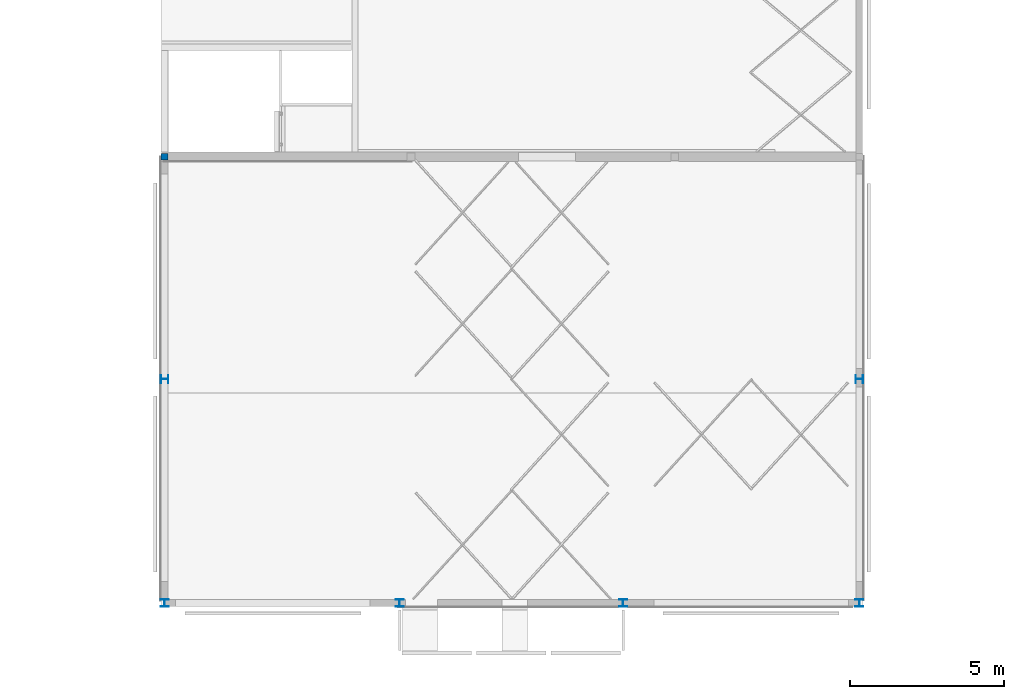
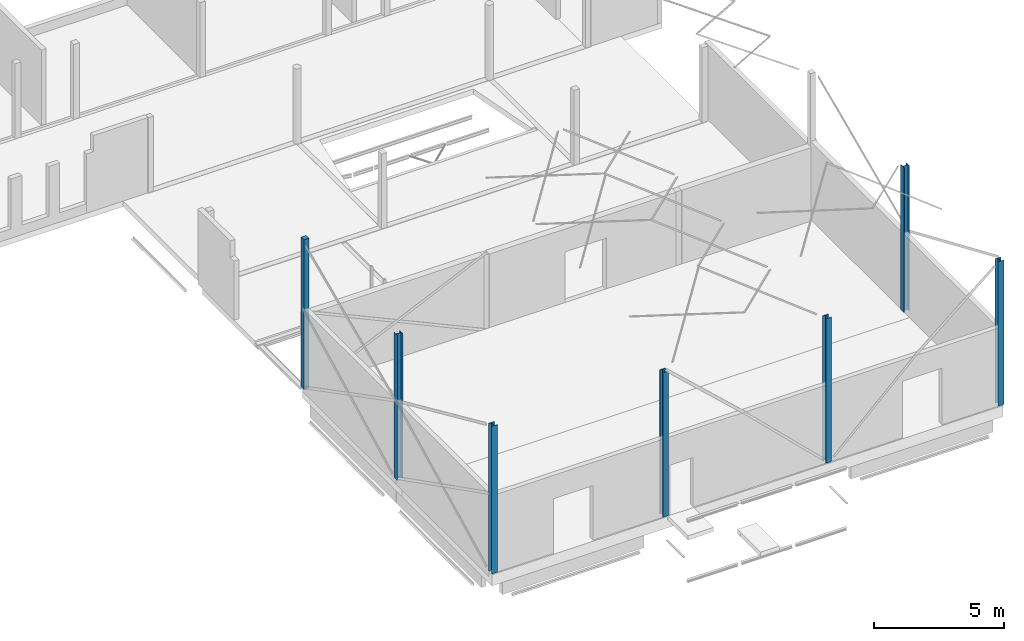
# One storey, part 1 of 14: 7 columns.
"""IFC2X3 building model written with IfcOpenShell, lengths in millimetres."""

from ifc_helpers import new_model, entity, si_unit, converted_unit, derived_unit, direction, frame, frame_2d, origin, place, context, subcontext, project, spatial, polyline, rectangle, i_section, outline, extrude, source, transform, mapped, material, material_list, type_object, type_shapes, element, save


model = new_model("IFC2X3")

# Units and contexts
model_context = context("Model", 3, precision=0.01, world=origin(), true_north=direction((6.123031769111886e-17, 1.0)))
body_context = subcontext(model_context, "Body", "Model", "MODEL_VIEW")
ifc_project = project(units=[si_unit("LENGTHUNIT", "METRE", prefix="MILLI"), si_unit("AREAUNIT", "SQUARE_METRE", prefix="MILLI"), si_unit("VOLUMEUNIT", "CUBIC_METRE"), converted_unit("PLANEANGLEUNIT", "DEGREE", entity("IfcPlaneAngleMeasure", 0.017453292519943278), si_unit("PLANEANGLEUNIT", "RADIAN"), dimensions=[0, 0, 0, 0, 0, 0, 0]), si_unit("MASSUNIT", "GRAM", prefix="KILO"), derived_unit("MASSDENSITYUNIT", [(si_unit("MASSUNIT", "GRAM", prefix="KILO"), 1), (si_unit("LENGTHUNIT", "METRE"), -3)]), derived_unit("IONCONCENTRATIONUNIT", [(si_unit("MASSUNIT", "GRAM", prefix="KILO"), 1), (si_unit("LENGTHUNIT", "METRE"), -3)]), derived_unit("MOMENTOFINERTIAUNIT", [(si_unit("LENGTHUNIT", "METRE"), 4)]), si_unit("TIMEUNIT", "SECOND"), si_unit("FREQUENCYUNIT", "HERTZ"), si_unit("THERMODYNAMICTEMPERATUREUNIT", "DEGREE_CELSIUS"), derived_unit("THERMALTRANSMITTANCEUNIT", [(si_unit("MASSUNIT", "GRAM", prefix="KILO"), 1), (si_unit("THERMODYNAMICTEMPERATUREUNIT", "KELVIN"), -1), (si_unit("TIMEUNIT", "SECOND"), -3)]), derived_unit("THERMALCONDUCTANCEUNIT", [(si_unit("MASSUNIT", "GRAM", prefix="KILO"), 1), (si_unit("THERMODYNAMICTEMPERATUREUNIT", "KELVIN"), -1), (si_unit("TIMEUNIT", "SECOND"), -3), (si_unit("LENGTHUNIT", "METRE"), 1)]), derived_unit("VOLUMETRICFLOWRATEUNIT", [(si_unit("LENGTHUNIT", "METRE", prefix="DECI"), 3), (si_unit("TIMEUNIT", "SECOND"), -1)]), derived_unit("MASSFLOWRATEUNIT", [(si_unit("MASSUNIT", "GRAM", prefix="KILO"), 1), (si_unit("TIMEUNIT", "SECOND"), -1)]), derived_unit("ROTATIONALFREQUENCYUNIT", [(si_unit("TIMEUNIT", "SECOND"), -1)]), si_unit("ELECTRICCURRENTUNIT", "AMPERE"), si_unit("ELECTRICVOLTAGEUNIT", "VOLT"), si_unit("POWERUNIT", "WATT"), si_unit("FORCEUNIT", "NEWTON", prefix="KILO"), si_unit("ILLUMINANCEUNIT", "LUX"), si_unit("LUMINOUSFLUXUNIT", "LUMEN"), si_unit("LUMINOUSINTENSITYUNIT", "CANDELA"), si_unit("ENERGYUNIT", "JOULE"), derived_unit("USERDEFINED", [(si_unit("MASSUNIT", "GRAM", prefix="KILO"), -1), (si_unit("LENGTHUNIT", "METRE"), -2), (si_unit("TIMEUNIT", "SECOND"), 3), (si_unit("LUMINOUSFLUXUNIT", "LUMEN"), 1)]), derived_unit("USERDEFINED", [(si_unit("MASSUNIT", "GRAM", prefix="KILO"), 1), (si_unit("TIMEUNIT", "SECOND"), -3), (si_unit("LENGTHUNIT", "METRE"), 3), (si_unit("ELECTRICCURRENTUNIT", "AMPERE"), -2)]), derived_unit("SOUNDPOWERUNIT", [(si_unit("MASSUNIT", "GRAM", prefix="KILO"), 1), (si_unit("TIMEUNIT", "SECOND"), -3), (si_unit("LENGTHUNIT", "METRE"), 2)]), derived_unit("SOUNDPRESSUREUNIT", [(si_unit("MASSUNIT", "GRAM", prefix="KILO"), 1), (si_unit("LENGTHUNIT", "METRE"), -1), (si_unit("TIMEUNIT", "SECOND"), -2)]), derived_unit("LINEARVELOCITYUNIT", [(si_unit("LENGTHUNIT", "METRE"), 1), (si_unit("TIMEUNIT", "SECOND"), -1)]), si_unit("PRESSUREUNIT", "PASCAL"), derived_unit("USERDEFINED", [(si_unit("MASSUNIT", "GRAM", prefix="KILO"), 1), (si_unit("LENGTHUNIT", "METRE"), -2), (si_unit("TIMEUNIT", "SECOND"), -2)]), derived_unit("LINEARFORCEUNIT", [(si_unit("MASSUNIT", "GRAM", prefix="KILO"), 1), (si_unit("TIMEUNIT", "SECOND"), -2)]), derived_unit("PLANARFORCEUNIT", [(si_unit("MASSUNIT", "GRAM", prefix="KILO"), 1), (si_unit("LENGTHUNIT", "METRE"), -1), (si_unit("TIMEUNIT", "SECOND"), -2)]), derived_unit("SPECIFICHEATCAPACITYUNIT", [(si_unit("THERMODYNAMICTEMPERATUREUNIT", "KELVIN"), -1), (si_unit("LENGTHUNIT", "METRE"), 2), (si_unit("TIMEUNIT", "SECOND"), -2)]), derived_unit("HEATFLUXDENSITYUNIT", [(si_unit("MASSUNIT", "GRAM", prefix="KILO"), 1), (si_unit("TIMEUNIT", "SECOND"), -3)]), derived_unit("HEATINGVALUEUNIT", [(si_unit("LENGTHUNIT", "METRE"), 2), (si_unit("TIMEUNIT", "SECOND"), -2)]), derived_unit("VAPORPERMEABILITYUNIT", [(si_unit("LENGTHUNIT", "METRE"), -1), (si_unit("TIMEUNIT", "SECOND"), 1)]), derived_unit("DYNAMICVISCOSITYUNIT", [(si_unit("MASSUNIT", "GRAM", prefix="KILO"), 1), (si_unit("TIMEUNIT", "SECOND"), -1), (si_unit("LENGTHUNIT", "METRE"), -1)]), derived_unit("THERMALEXPANSIONCOEFFICIENTUNIT", [(si_unit("THERMODYNAMICTEMPERATUREUNIT", "KELVIN"), -1)]), derived_unit("MODULUSOFELASTICITYUNIT", [(si_unit("MASSUNIT", "GRAM", prefix="KILO"), 1), (si_unit("LENGTHUNIT", "METRE"), -1), (si_unit("TIMEUNIT", "SECOND"), -2)]), derived_unit("ISOTHERMALMOISTURECAPACITYUNIT", [(si_unit("MASSUNIT", "GRAM", prefix="KILO"), -1), (si_unit("LENGTHUNIT", "METRE"), 3)]), derived_unit("MOISTUREDIFFUSIVITYUNIT", [(si_unit("TIMEUNIT", "SECOND"), -1), (si_unit("LENGTHUNIT", "METRE"), 2)]), derived_unit("MASSPERLENGTHUNIT", [(si_unit("MASSUNIT", "GRAM", prefix="KILO"), 1), (si_unit("LENGTHUNIT", "METRE"), -1)]), derived_unit("THERMALRESISTANCEUNIT", [(si_unit("MASSUNIT", "GRAM", prefix="KILO"), -1), (si_unit("TIMEUNIT", "SECOND"), 3), (si_unit("THERMODYNAMICTEMPERATUREUNIT", "KELVIN"), 1)]), derived_unit("ACCELERATIONUNIT", [(si_unit("LENGTHUNIT", "METRE"), 1), (si_unit("TIMEUNIT", "SECOND"), -2)]), derived_unit("ANGULARVELOCITYUNIT", [(si_unit("TIMEUNIT", "SECOND"), -1), (si_unit("PLANEANGLEUNIT", "RADIAN"), 1)]), derived_unit("LINEARSTIFFNESSUNIT", [(si_unit("MASSUNIT", "GRAM", prefix="KILO"), 1), (si_unit("TIMEUNIT", "SECOND"), -2)]), derived_unit("WARPINGCONSTANTUNIT", [(si_unit("LENGTHUNIT", "METRE"), 6)]), derived_unit("LINEARMOMENTUNIT", [(si_unit("MASSUNIT", "GRAM", prefix="KILO"), 1), (si_unit("LENGTHUNIT", "METRE"), 1), (si_unit("TIMEUNIT", "SECOND"), -2)]), derived_unit("TORQUEUNIT", [(si_unit("MASSUNIT", "GRAM", prefix="KILO"), 1), (si_unit("LENGTHUNIT", "METRE"), 2), (si_unit("TIMEUNIT", "SECOND"), -2)])], contexts=[model_context])

# Site, building, storey
site_placement = place(None, origin())
site = spatial("IfcSite", under=ifc_project, at=site_placement, Name="Default", CompositionType="ELEMENT")
building_placement = place(site_placement, origin())
building = spatial("IfcBuilding", under=site, at=building_placement, CompositionType="ELEMENT")
storey_placement = place(building_placement, frame((0.0, 0.0, 3730.0)))
storey = spatial("IfcBuildingStorey", under=building, at=storey_placement, Name="V1 1e verd. (bk ruwe vloer)", CompositionType="ELEMENT", Elevation=3729.9999999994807)

# Columns
ifc_material_1 = material(Name="Metal - Steel - S275 J0H (standaard-kokers/buizen)")
ifc_material_2 = material(Name="Concrete - Cast-in-Place - C30/37")
ifc_material_list = material_list([ifc_material_1, ifc_material_2])
column_type_1 = type_object("IfcColumnType", Name="btk_staal - Koker + beton:K220x220x8", PredefinedType="COLUMN", material=ifc_material_list)
shared_shape_1 = source(origin(), body_context, "Body", "SweptSolid", [
    extrude(outline(polyline([(-110.0, -110.0), (110.0, -110.0), (110.0, 110.0), (-110.0, 110.0), (-110.0, -110.0)]), holes=[polyline([(-102.0, -102.0), (-102.0, 102.0), (102.0, 102.0), (102.0, -102.0), (-102.0, -102.0)])]), frame((6718.0007812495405, 17494.605013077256, 3730.0), z_axis=(0.0, 0.0, 1.0), x_axis=(0.0, -1.0, 0.0)), (0.0, 0.0, 1.0), 7040.868489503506),
    extrude(rectangle(XDim=203.9999999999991, YDim=204.00000000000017, at=frame_2d((1.0871303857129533e-12, -5.471179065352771e-13), x_axis=(1.0, 0.0))), frame((6718.000781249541, 17494.605013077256, 3730.0), z_axis=(0.0, 0.0, 1.0), x_axis=(0.0, -1.0, 0.0)), (0.0, 0.0, 1.0), 7040.868489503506),
])
type_shapes(column_type_1, [shared_shape_1])
column_1_placement = place(storey_placement, frame((0.0, 0.0, -3730.0)))
element("IfcColumn", 1, at=column_1_placement, inside=storey, type_object=column_type_1, material=ifc_material_list, Name="btk_staal - Koker + beton:K220x220x8", ObjectType="btk_staal - Koker + beton:K220x220x8", context=body_context, shape_type="MappedRepresentation", body=[
    mapped(shared_shape_1, transform((0.0, 0.0, 0.0), scale=1.0)),
])
ifc_material_3 = material(Name="Metal - Steel - S235 JRG2 (standaard)")
column_type_2 = type_object("IfcColumnType", Name="btk_staal - HE(a-b-m):HEA260", PredefinedType="COLUMN", material=ifc_material_3)
shared_shape_2 = source(origin(), body_context, "Body", "SweptSolid", [
    extrude(i_section(OverallWidth=260.00000000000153, OverallDepth=250.00000000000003, WebThickness=7.499999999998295, FlangeThickness=12.499999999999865, at=frame_2d((-4.320099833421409e-12, -2.7000623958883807e-13), x_axis=(1.0, 0.0))), frame((29231.985770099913, 3037.6050130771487, 3850.0), z_axis=(0.0, 0.0, 1.0), x_axis=(-1.0, 0.0, 0.0)), (0.0, 0.0, 1.0), 6787.94837868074),
])
type_shapes(column_type_2, [shared_shape_2])
column_2_placement = place(storey_placement, frame((0.0, 0.0, -3730.0)))
element("IfcColumn", 2, at=column_2_placement, inside=storey, type_object=column_type_2, material=ifc_material_3, Name="btk_staal - HE(a-b-m):HEA260", ObjectType="btk_staal - HE(a-b-m):HEA260", context=body_context, shape_type="MappedRepresentation", body=[
    mapped(shared_shape_2, transform((0.0, 0.0, 0.0), scale=1.0)),
])
column_type_3 = type_object("IfcColumnType", Name="btk_staal - HE(a-b-m):HEA260", PredefinedType="COLUMN", material=ifc_material_3)
shared_shape_3 = source(origin(), body_context, "Body", "SweptSolid", [
    extrude(i_section(OverallWidth=260.00000000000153, OverallDepth=250.00000000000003, WebThickness=7.499999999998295, FlangeThickness=12.499999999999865, at=frame_2d((4.320099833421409e-12, -2.7000623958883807e-13), x_axis=(1.0, 0.0))), frame((21573.430061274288, 3037.605013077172, 3850.0), z_axis=(0.0, 0.0, 1.0), x_axis=(-1.0, 0.0, 0.0)), (0.0, 0.0, 1.0), 6787.949970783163),
])
type_shapes(column_type_3, [shared_shape_3])
column_3_placement = place(storey_placement, frame((0.0, 0.0, -3730.0)))
element("IfcColumn", 3, at=column_3_placement, inside=storey, type_object=column_type_3, material=ifc_material_3, Name="btk_staal - HE(a-b-m):HEA260", ObjectType="btk_staal - HE(a-b-m):HEA260", context=body_context, shape_type="MappedRepresentation", body=[
    mapped(shared_shape_3, transform((0.0, 0.0, 0.0), scale=1.0)),
])
column_type_4 = type_object("IfcColumnType", Name="btk_staal - HE(a-b-m):HEA260", PredefinedType="COLUMN", material=ifc_material_3)
shared_shape_4 = source(origin(), body_context, "Body", "SweptSolid", [
    extrude(i_section(OverallWidth=259.9999999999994, OverallDepth=250.00000000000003, WebThickness=7.50000000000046, FlangeThickness=12.499999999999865, at=frame_2d((-1.0800249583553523e-12, 2.7000623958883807e-13), x_axis=(1.0, 0.0))), frame((14332.5552522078, 3037.605013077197, 3850.0), z_axis=(0.0, 0.0, 1.0), x_axis=(-1.0, 0.0, 0.0)), (0.0, 0.0, 1.0), 6787.951528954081),
])
type_shapes(column_type_4, [shared_shape_4])
column_4_placement = place(storey_placement, frame((0.0, 0.0, -3730.0)))
element("IfcColumn", 4, at=column_4_placement, inside=storey, type_object=column_type_4, material=ifc_material_3, Name="btk_staal - HE(a-b-m):HEA260", ObjectType="btk_staal - HE(a-b-m):HEA260", context=body_context, shape_type="MappedRepresentation", body=[
    mapped(shared_shape_4, transform((0.0, 0.0, 0.0), scale=1.0)),
])
column_type_5 = type_object("IfcColumnType", Name="btk_staal - HE(a-b-m):HEA260", PredefinedType="COLUMN", material=ifc_material_3)
shared_shape_5 = source(origin(), body_context, "Body", "SweptSolid", [
    extrude(i_section(OverallWidth=260.00000000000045, OverallDepth=250.00000000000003, WebThickness=7.500000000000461, FlangeThickness=12.499999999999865, at=frame_2d((-5.400124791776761e-13, -2.7000623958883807e-13), x_axis=(1.0, 0.0))), frame((6718.0007812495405, 3037.6050130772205, 3850.0), z_axis=(0.0, 0.0, 1.0), x_axis=(-1.0, 0.0, 0.0)), (0.0, 0.0, 1.0), 6934.249999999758),
])
type_shapes(column_type_5, [shared_shape_5])
column_5_placement = place(storey_placement, frame((0.0, 0.0, -3730.0)))
element("IfcColumn", 5, at=column_5_placement, inside=storey, type_object=column_type_5, material=ifc_material_3, Name="btk_staal - HE(a-b-m):HEA260", ObjectType="btk_staal - HE(a-b-m):HEA260", context=body_context, shape_type="MappedRepresentation", body=[
    mapped(shared_shape_5, transform((0.0, 0.0, 0.0), scale=1.0)),
])
column_type_6 = type_object("IfcColumnType", Name="btk_staal - HE(a-b-m):HEA260", PredefinedType="COLUMN", material=ifc_material_3)
shared_shape_6 = source(origin(), body_context, "Body", "SweptSolid", [
    extrude(i_section(OverallWidth=259.9999999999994, OverallDepth=249.9999999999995, WebThickness=7.50000000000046, FlangeThickness=12.500000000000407, at=frame_2d((1.0800249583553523e-12, 1.0871303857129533e-12), x_axis=(1.0, 0.0))), frame((6718.000781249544, 10294.60501307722, 3850.0), z_axis=(0.0, 0.0, 1.0), x_axis=(0.0, -1.0, 0.0)), (0.0, 0.0, 1.0), 6807.999999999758),
])
type_shapes(column_type_6, [shared_shape_6])
column_6_placement = place(storey_placement, frame((0.0, 0.0, -3730.0)))
element("IfcColumn", 6, at=column_6_placement, inside=storey, type_object=column_type_6, material=ifc_material_3, Name="btk_staal - HE(a-b-m):HEA260", ObjectType="btk_staal - HE(a-b-m):HEA260", context=body_context, shape_type="MappedRepresentation", body=[
    mapped(shared_shape_6, transform((0.0, 0.0, 0.0), scale=1.0)),
])
column_type_7 = type_object("IfcColumnType", Name="btk_staal - HE(a-b-m):HEA260", PredefinedType="COLUMN", material=ifc_material_3)
shared_shape_7 = source(origin(), body_context, "Body", "SweptSolid", [
    extrude(i_section(OverallWidth=259.9999999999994, OverallDepth=249.9999999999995, WebThickness=7.500000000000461, FlangeThickness=12.499999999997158, at=frame_2d((-3.240074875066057e-12, 2.1671553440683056e-12), x_axis=(1.0, 0.0))), frame((29231.985770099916, 10294.605013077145, 3850.0), z_axis=(0.0, 0.0, 1.0), x_axis=(0.0, -1.0, 0.0)), (0.0, 0.0, 1.0), 6807.999999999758),
])
type_shapes(column_type_7, [shared_shape_7])
column_7_placement = place(storey_placement, frame((0.0, 0.0, -3730.0)))
element("IfcColumn", 7, at=column_7_placement, inside=storey, type_object=column_type_7, material=ifc_material_3, Name="btk_staal - HE(a-b-m):HEA260", ObjectType="btk_staal - HE(a-b-m):HEA260", context=body_context, shape_type="MappedRepresentation", body=[
    mapped(shared_shape_7, transform((0.0, 0.0, 0.0), scale=1.0)),
])

save(model, "model.ifc")
